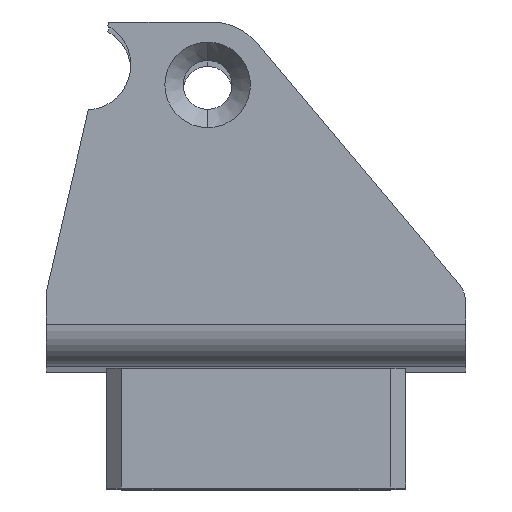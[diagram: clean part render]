
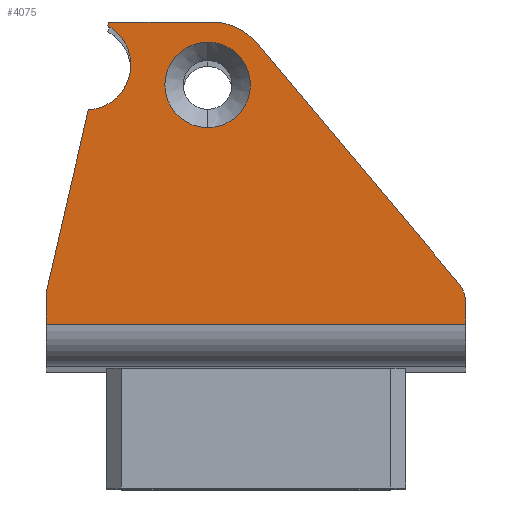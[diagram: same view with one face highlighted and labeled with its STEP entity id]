
A CAD part, top view. The second image highlights one B-rep face of the part: STEP entity #4075.
In plain terms, the highlighted planar face has unit normal (0, 0, 1).
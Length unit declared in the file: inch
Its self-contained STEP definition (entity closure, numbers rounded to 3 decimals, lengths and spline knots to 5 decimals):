
#13 = VECTOR ( 'NONE', #89, 39.37008 ) ;
#47 = EDGE_CURVE ( 'NONE', #4957, #1612, #5894, .T. ) ;
#89 = DIRECTION ( 'NONE',  ( 0., 1., 0. ) ) ;
#198 = EDGE_LOOP ( 'NONE', ( #2880, #4423 ) ) ;
#247 = ORIENTED_EDGE ( 'NONE', *, *, #6436, .T. ) ;
#315 = CARTESIAN_POINT ( 'NONE',  ( -0.55118, 0.032, 4.49803 ) ) ;
#497 = DIRECTION ( 'NONE',  ( -1., 0., 0. ) ) ;
#657 = LINE ( 'NONE', #7344, #6773 ) ;
#703 = DIRECTION ( 'NONE',  ( -1., 0., 0. ) ) ;
#711 = VERTEX_POINT ( 'NONE', #2721 ) ;
#741 = EDGE_CURVE ( 'NONE', #3932, #3166, #2687, .T. ) ;
#964 = DIRECTION ( 'NONE',  ( 0., 0., -1. ) ) ;
#1059 = DIRECTION ( 'NONE',  ( 0., -1., 0. ) ) ;
#1156 = AXIS2_PLACEMENT_3D ( 'NONE', #4570, #5772, #1059 ) ;
#1471 = DIRECTION ( 'NONE',  ( -1., 0., 0. ) ) ;
#1476 = VERTEX_POINT ( 'NONE', #1912 ) ;
#1595 = DIRECTION ( 'NONE',  ( -1., 0., 0. ) ) ;
#1612 = VERTEX_POINT ( 'NONE', #3157 ) ;
#1638 = EDGE_CURVE ( 'NONE', #1612, #1476, #657, .T. ) ;
#1781 = CARTESIAN_POINT ( 'NONE',  ( 0.55118, 0.032, 4.49803 ) ) ;
#1912 = CARTESIAN_POINT ( 'NONE',  ( 0.00375, 0.77052, 4.49803 ) ) ;
#2093 = AXIS2_PLACEMENT_3D ( 'NONE', #2941, #4256, #3714 ) ;
#2137 = ORIENTED_EDGE ( 'NONE', *, *, #6491, .T. ) ;
#2249 = EDGE_CURVE ( 'NONE', #4678, #5533, #4552, .T. ) ;
#2350 = DIRECTION ( 'NONE',  ( 0., 0., -1. ) ) ;
#2409 = AXIS2_PLACEMENT_3D ( 'NONE', #7359, #2608, #1471 ) ;
#2541 = CARTESIAN_POINT ( 'NONE',  ( -0.54918, 0.12679, 4.49803 ) ) ;
#2550 = EDGE_CURVE ( 'NONE', #4312, #7658, #6278, .T. ) ;
#2566 = CARTESIAN_POINT ( 'NONE',  ( -0.4409, 0.59577, 4.49803 ) ) ;
#2608 = DIRECTION ( 'NONE',  ( 0., 0., 1. ) ) ;
#2641 = DIRECTION ( 'NONE',  ( -0.643, 0.766, 0. ) ) ;
#2685 = CIRCLE ( 'NONE', #2093, 0.1125 ) ;
#2687 = LINE ( 'NONE', #315, #5255 ) ;
#2721 = CARTESIAN_POINT ( 'NONE',  ( -0.38984, 0.81694, 4.49803 ) ) ;
#2740 = CIRCLE ( 'NONE', #1156, 0.1125 ) ;
#2781 = EDGE_CURVE ( 'NONE', #7658, #3166, #7210, .T. ) ;
#2813 = LINE ( 'NONE', #4240, #4560 ) ;
#2880 = ORIENTED_EDGE ( 'NONE', *, *, #7330, .F. ) ;
#2936 = FACE_BOUND ( 'NONE', #198, .T. ) ;
#2941 = CARTESIAN_POINT ( 'NONE',  ( -0.12719, 0.66142, 4.49803 ) ) ;
#2983 = VECTOR ( 'NONE', #1595, 39.37008 ) ;
#2992 = CARTESIAN_POINT ( 'NONE',  ( -0.11689, 0.66929, 4.49803 ) ) ;
#3048 = ORIENTED_EDGE ( 'NONE', *, *, #47, .T. ) ;
#3128 = DIRECTION ( 'NONE',  ( -0.225, -0.974, 0. ) ) ;
#3157 = CARTESIAN_POINT ( 'NONE',  ( 0.53276, 0.14006, 4.49803 ) ) ;
#3166 = VERTEX_POINT ( 'NONE', #5867 ) ;
#3183 = EDGE_CURVE ( 'NONE', #4499, #4055, #2685, .T. ) ;
#3372 = CIRCLE ( 'NONE', #6599, 0.15748 ) ;
#3375 = ORIENTED_EDGE ( 'NONE', *, *, #6525, .T. ) ;
#3580 = DIRECTION ( 'NONE',  ( 0., 0., 1. ) ) ;
#3714 = DIRECTION ( 'NONE',  ( 0., -1., 0. ) ) ;
#3911 = PLANE ( 'NONE',  #4286 ) ;
#3932 = VERTEX_POINT ( 'NONE', #1781 ) ;
#3939 = CARTESIAN_POINT ( 'NONE',  ( -0.11689, 0.82677, 4.49803 ) ) ;
#3993 = CARTESIAN_POINT ( 'NONE',  ( -0.12719, 0.54892, 4.49803 ) ) ;
#4055 = VERTEX_POINT ( 'NONE', #3993 ) ;
#4075 = ADVANCED_FACE ( 'NONE', ( #2936, #4411 ), #3911, .F. ) ;
#4091 = CARTESIAN_POINT ( 'NONE',  ( -0.44724, 0.71371, 4.49803 ) ) ;
#4240 = CARTESIAN_POINT ( 'NONE',  ( -0.54918, 0.12679, 4.49803 ) ) ;
#4250 = ORIENTED_EDGE ( 'NONE', *, *, #5712, .T. ) ;
#4256 = DIRECTION ( 'NONE',  ( 0., 0., 1. ) ) ;
#4286 = AXIS2_PLACEMENT_3D ( 'NONE', #6271, #964, #7504 ) ;
#4312 = VERTEX_POINT ( 'NONE', #2566 ) ;
#4316 = ORIENTED_EDGE ( 'NONE', *, *, #2781, .T. ) ;
#4411 = FACE_OUTER_BOUND ( 'NONE', #5412, .T. ) ;
#4423 = ORIENTED_EDGE ( 'NONE', *, *, #3183, .F. ) ;
#4494 = CARTESIAN_POINT ( 'NONE',  ( -0.55118, 0., 4.49803 ) ) ;
#4499 = VERTEX_POINT ( 'NONE', #6765 ) ;
#4528 = CARTESIAN_POINT ( 'NONE',  ( 0., 0.82677, 4.49803 ) ) ;
#4542 = AXIS2_PLACEMENT_3D ( 'NONE', #4091, #2350, #497 ) ;
#4545 = DIRECTION ( 'NONE',  ( 0., -1., 0. ) ) ;
#4552 = LINE ( 'NONE', #4528, #2983 ) ;
#4560 = VECTOR ( 'NONE', #7197, 39.37008 ) ;
#4570 = CARTESIAN_POINT ( 'NONE',  ( -0.12719, 0.66142, 4.49803 ) ) ;
#4621 = CARTESIAN_POINT ( 'NONE',  ( -0.38757, 0.82677, 4.49803 ) ) ;
#4678 = VERTEX_POINT ( 'NONE', #3939 ) ;
#4725 = VECTOR ( 'NONE', #3128, 39.37008 ) ;
#4728 = ORIENTED_EDGE ( 'NONE', *, *, #1638, .T. ) ;
#4957 = VERTEX_POINT ( 'NONE', #5403 ) ;
#5255 = VECTOR ( 'NONE', #6837, 39.37008 ) ;
#5403 = CARTESIAN_POINT ( 'NONE',  ( 0.55118, 0.08945, 4.49803 ) ) ;
#5412 = EDGE_LOOP ( 'NONE', ( #4728, #4250, #6250, #2137, #247, #6739, #4316, #6962, #3375, #3048 ) ) ;
#5533 = VERTEX_POINT ( 'NONE', #4621 ) ;
#5712 = EDGE_CURVE ( 'NONE', #1476, #4678, #3372, .T. ) ;
#5746 = CIRCLE ( 'NONE', #4542, 0.11811 ) ;
#5772 = DIRECTION ( 'NONE',  ( 0., 0., 1. ) ) ;
#5867 = CARTESIAN_POINT ( 'NONE',  ( -0.55118, 0.032, 4.49803 ) ) ;
#5894 = CIRCLE ( 'NONE', #2409, 0.07874 ) ;
#6250 = ORIENTED_EDGE ( 'NONE', *, *, #2249, .T. ) ;
#6271 = CARTESIAN_POINT ( 'NONE',  ( 0., 0., 4.49803 ) ) ;
#6278 = LINE ( 'NONE', #2541, #4725 ) ;
#6436 = EDGE_CURVE ( 'NONE', #711, #4312, #5746, .T. ) ;
#6491 = EDGE_CURVE ( 'NONE', #5533, #711, #2813, .T. ) ;
#6525 = EDGE_CURVE ( 'NONE', #3932, #4957, #7585, .T. ) ;
#6545 = CARTESIAN_POINT ( 'NONE',  ( 0.55118, 0., 4.49803 ) ) ;
#6599 = AXIS2_PLACEMENT_3D ( 'NONE', #2992, #3580, #703 ) ;
#6656 = VECTOR ( 'NONE', #4545, 39.37008 ) ;
#6682 = CARTESIAN_POINT ( 'NONE',  ( -0.55118, 0.11811, 4.49803 ) ) ;
#6739 = ORIENTED_EDGE ( 'NONE', *, *, #2550, .T. ) ;
#6765 = CARTESIAN_POINT ( 'NONE',  ( -0.12719, 0.77392, 4.49803 ) ) ;
#6773 = VECTOR ( 'NONE', #2641, 39.37008 ) ;
#6837 = DIRECTION ( 'NONE',  ( -1., 0., 0. ) ) ;
#6962 = ORIENTED_EDGE ( 'NONE', *, *, #741, .F. ) ;
#7197 = DIRECTION ( 'NONE',  ( -0.225, -0.974, 0. ) ) ;
#7210 = LINE ( 'NONE', #4494, #6656 ) ;
#7330 = EDGE_CURVE ( 'NONE', #4055, #4499, #2740, .T. ) ;
#7344 = CARTESIAN_POINT ( 'NONE',  ( 0.3816, 0.3202, 4.49803 ) ) ;
#7359 = CARTESIAN_POINT ( 'NONE',  ( 0.47244, 0.08945, 4.49803 ) ) ;
#7504 = DIRECTION ( 'NONE',  ( -1., 0., 0. ) ) ;
#7585 = LINE ( 'NONE', #6545, #13 ) ;
#7658 = VERTEX_POINT ( 'NONE', #6682 ) ;
